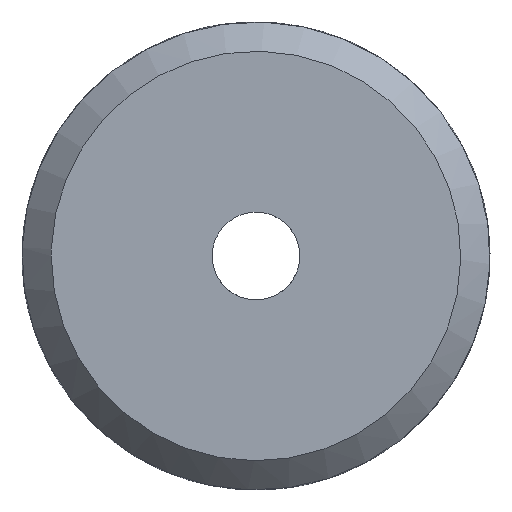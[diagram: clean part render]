
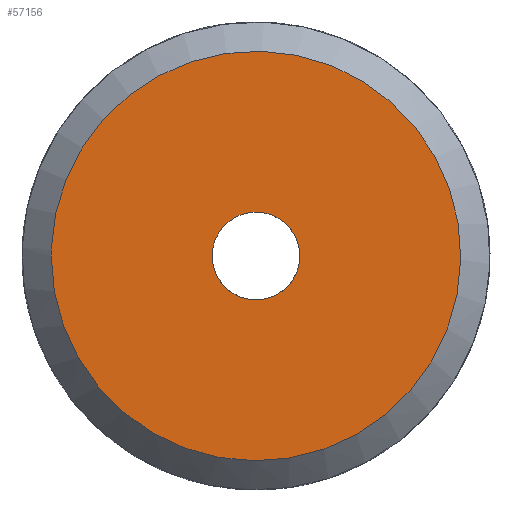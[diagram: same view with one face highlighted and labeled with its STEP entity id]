
A CAD part, left-side view. The second image highlights one B-rep face of the part: STEP entity #57156.
In plain terms, the highlighted planar face has unit normal (-1, 0, 0).
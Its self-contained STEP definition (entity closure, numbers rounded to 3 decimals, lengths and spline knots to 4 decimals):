
#13876=PLANE('',#56134);
#15160=ORIENTED_EDGE('',*,*,#19318,.F.);
#15161=ORIENTED_EDGE('',*,*,#19319,.F.);
#17893=CIRCLE('',#56133,7.);
#17894=CIRCLE('',#56135,1.5);
#18382=VERTEX_POINT('',#24266);
#18383=VERTEX_POINT('',#24269);
#19318=EDGE_CURVE('',#18382,#18382,#17893,.T.);
#19319=EDGE_CURVE('',#18383,#18383,#17894,.T.);
#20673=EDGE_LOOP('',(#15160));
#20674=EDGE_LOOP('',(#15161));
#21135=FACE_BOUND('',#20673,.T.);
#21136=FACE_BOUND('',#20674,.T.);
#21614=DIRECTION('',(1.,0.,0.));
#21615=DIRECTION('',(0.,7.,0.));
#21616=DIRECTION('',(-1.,0.,0.));
#21617=DIRECTION('',(0.,1.,0.));
#21618=DIRECTION('',(-1.,0.,0.));
#21619=DIRECTION('',(0.,-1.5,0.));
#24266=CARTESIAN_POINT('',(82.0578,295.1313,0.));
#24267=CARTESIAN_POINT('',(82.0578,288.1313,0.));
#24268=CARTESIAN_POINT('',(82.0578,295.1313,0.));
#24269=CARTESIAN_POINT('',(82.0578,286.6313,0.));
#24270=CARTESIAN_POINT('',(82.0578,288.1313,0.));
#56133=AXIS2_PLACEMENT_3D('',#24267,#21614,#21615);
#56134=AXIS2_PLACEMENT_3D('',#24268,#21616,#21617);
#56135=AXIS2_PLACEMENT_3D('',#24270,#21618,#21619);
#57156=ADVANCED_FACE('',(#21135,#21136),#13876,.T.);
